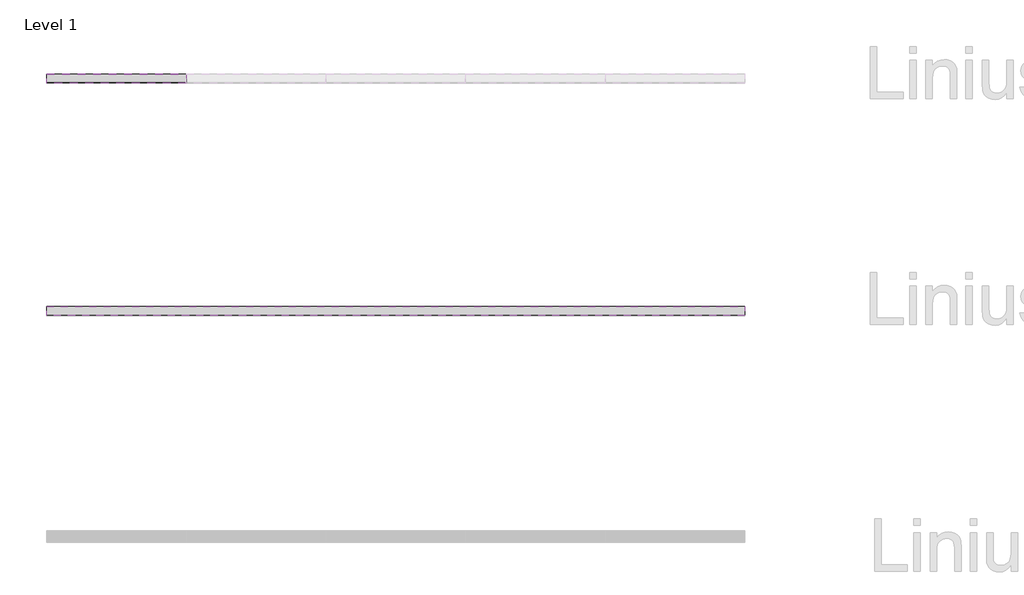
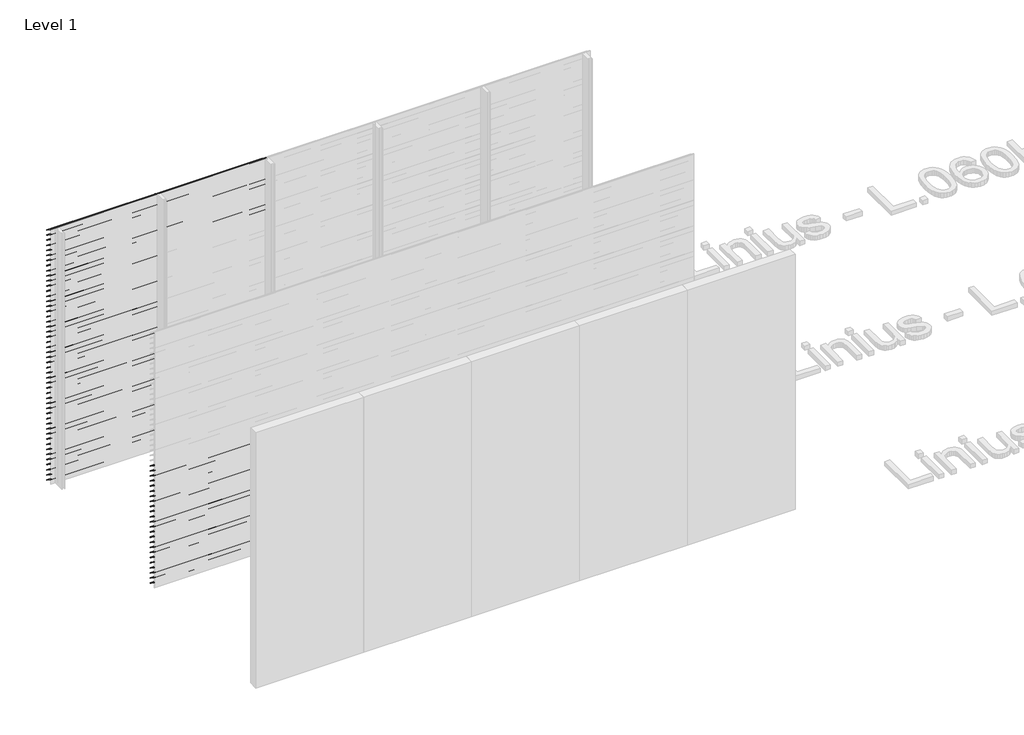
# One storey, part 14 of 153: 85 proxies.
"""IFC4 building model written with IfcOpenShell, lengths in millimetres."""

from ifc_helpers import new_model, si_unit, frame, origin, place, context, project, spatial, polyline, outline, extrude, element, save

model = new_model("IFC4")

# Units and contexts
model_context = context("Model", 3, world=origin())
ifc_project = project(units=[si_unit("LENGTHUNIT", "METRE", prefix="MILLI")], contexts=[model_context])

# Site, building, storey
site = spatial("IfcSite", under=ifc_project)
building = spatial("IfcBuilding", under=site)
storey = spatial("IfcBuildingStorey", under=building, Name="Level 1", Elevation=0.0)

# Proxies
placement = place(None, origin())
element("IfcBuildingElementProxy", 1, Name="Wall Sweeps", at=placement, inside=storey, context=model_context, shape_type="SweptSolid", body=[
    extrude(outline(polyline([(14061.0540136, 2946.0), (14061.0540136, 2940.0), (14059.8040136, 2940.7216933), (14059.8040136, 2945.2538091), (13983.0540136, 2993.9915103), (13983.0540136, 3000.0), (13984.3040136, 3000.0), (13984.3040136, 2994.7377012), (14061.0540136, 2946.0)])), frame((466.6208097, 0.0, 0.0), z_axis=(1.0, 0.0, 0.0), x_axis=(0.0, 1.0, 0.0)), (0.0, 0.0, 1.0), 1200.0000002),
])
element("IfcBuildingElementProxy", 2, Name="Wall Sweeps", at=placement, inside=storey, context=model_context, shape_type="SweptSolid", body=[
    extrude(outline(polyline([(14061.0540136, 2886.0), (14061.0540136, 2880.0), (14059.8040136, 2880.7216933), (14059.8040136, 2885.2538091), (13983.0540136, 2933.9915103), (13983.0540136, 2940.0), (13984.3040136, 2940.0), (13984.3040136, 2934.7377012), (14061.0540136, 2886.0)])), frame((466.6208097, 0.0, 0.0), z_axis=(1.0, 0.0, 0.0), x_axis=(0.0, 1.0, 0.0)), (0.0, 0.0, 1.0), 1200.0000002),
])
element("IfcBuildingElementProxy", 3, Name="Wall Sweeps", at=placement, inside=storey, context=model_context, shape_type="SweptSolid", body=[
    extrude(outline(polyline([(14061.0540136, 2826.0), (14061.0540136, 2820.0), (14059.8040136, 2820.7216933), (14059.8040136, 2825.2538091), (13983.0540136, 2873.9915103), (13983.0540136, 2880.0), (13984.3040136, 2880.0), (13984.3040136, 2874.7377012), (14061.0540136, 2826.0)])), frame((466.6208097, 0.0, 0.0), z_axis=(1.0, 0.0, 0.0), x_axis=(0.0, 1.0, 0.0)), (0.0, 0.0, 1.0), 1200.0000002),
])
element("IfcBuildingElementProxy", 4, Name="Wall Sweeps", at=placement, inside=storey, context=model_context, shape_type="SweptSolid", body=[
    extrude(outline(polyline([(14061.0540136, 2766.0), (14061.0540136, 2760.0), (14059.8040136, 2760.7216933), (14059.8040136, 2765.2538091), (13983.0540136, 2813.9915103), (13983.0540136, 2820.0), (13984.3040136, 2820.0), (13984.3040136, 2814.7377012), (14061.0540136, 2766.0)])), frame((466.6208097, 0.0, 0.0), z_axis=(1.0, 0.0, 0.0), x_axis=(0.0, 1.0, 0.0)), (0.0, 0.0, 1.0), 1200.0000002),
])
element("IfcBuildingElementProxy", 5, Name="Wall Sweeps", at=placement, inside=storey, context=model_context, shape_type="SweptSolid", body=[
    extrude(outline(polyline([(14061.0540136, 2706.0), (14061.0540136, 2700.0), (14059.8040136, 2700.7216933), (14059.8040136, 2705.2538091), (13983.0540136, 2753.9915103), (13983.0540136, 2760.0), (13984.3040136, 2760.0), (13984.3040136, 2754.7377012), (14061.0540136, 2706.0)])), frame((466.6208097, 0.0, 0.0), z_axis=(1.0, 0.0, 0.0), x_axis=(0.0, 1.0, 0.0)), (0.0, 0.0, 1.0), 1200.0000002),
])
element("IfcBuildingElementProxy", 6, Name="Wall Sweeps", at=placement, inside=storey, context=model_context, shape_type="SweptSolid", body=[
    extrude(outline(polyline([(14061.0540136, 2646.0), (14061.0540136, 2640.0), (14059.8040136, 2640.7216933), (14059.8040136, 2645.2538091), (13983.0540136, 2693.9915103), (13983.0540136, 2700.0), (13984.3040136, 2700.0), (13984.3040136, 2694.7377012), (14061.0540136, 2646.0)])), frame((466.6208097, 0.0, 0.0), z_axis=(1.0, 0.0, 0.0), x_axis=(0.0, 1.0, 0.0)), (0.0, 0.0, 1.0), 1200.0000002),
])
element("IfcBuildingElementProxy", 7, Name="Wall Sweeps", at=placement, inside=storey, context=model_context, shape_type="SweptSolid", body=[
    extrude(outline(polyline([(14061.0540136, 2586.0), (14061.0540136, 2580.0), (14059.8040136, 2580.7216933), (14059.8040136, 2585.2538091), (13983.0540136, 2633.9915103), (13983.0540136, 2640.0), (13984.3040136, 2640.0), (13984.3040136, 2634.7377012), (14061.0540136, 2586.0)])), frame((466.6208097, 0.0, 0.0), z_axis=(1.0, 0.0, 0.0), x_axis=(0.0, 1.0, 0.0)), (0.0, 0.0, 1.0), 1200.0000002),
])
element("IfcBuildingElementProxy", 8, Name="Wall Sweeps", at=placement, inside=storey, context=model_context, shape_type="SweptSolid", body=[
    extrude(outline(polyline([(14061.0540136, 2526.0), (14061.0540136, 2520.0), (14059.8040136, 2520.7216933), (14059.8040136, 2525.2538091), (13983.0540136, 2573.9915103), (13983.0540136, 2580.0), (13984.3040136, 2580.0), (13984.3040136, 2574.7377012), (14061.0540136, 2526.0)])), frame((466.6208097, 0.0, 0.0), z_axis=(1.0, 0.0, 0.0), x_axis=(0.0, 1.0, 0.0)), (0.0, 0.0, 1.0), 1200.0000002),
])
element("IfcBuildingElementProxy", 9, Name="Wall Sweeps", at=placement, inside=storey, context=model_context, shape_type="SweptSolid", body=[
    extrude(outline(polyline([(14061.0540136, 2466.0), (14061.0540136, 2460.0), (14059.8040136, 2460.7216933), (14059.8040136, 2465.2538091), (13983.0540136, 2513.9915103), (13983.0540136, 2520.0), (13984.3040136, 2520.0), (13984.3040136, 2514.7377012), (14061.0540136, 2466.0)])), frame((466.6208097, 0.0, 0.0), z_axis=(1.0, 0.0, 0.0), x_axis=(0.0, 1.0, 0.0)), (0.0, 0.0, 1.0), 1200.0000002),
])
element("IfcBuildingElementProxy", 10, Name="Wall Sweeps", at=placement, inside=storey, context=model_context, shape_type="SweptSolid", body=[
    extrude(outline(polyline([(14061.0540136, 2406.0), (14061.0540136, 2400.0), (14059.8040136, 2400.7216933), (14059.8040136, 2405.2538091), (13983.0540136, 2453.9915103), (13983.0540136, 2460.0), (13984.3040136, 2460.0), (13984.3040136, 2454.7377012), (14061.0540136, 2406.0)])), frame((466.6208097, 0.0, 0.0), z_axis=(1.0, 0.0, 0.0), x_axis=(0.0, 1.0, 0.0)), (0.0, 0.0, 1.0), 1200.0000002),
])
element("IfcBuildingElementProxy", 11, Name="Wall Sweeps", at=placement, inside=storey, context=model_context, shape_type="SweptSolid", body=[
    extrude(outline(polyline([(14061.0540136, 2346.0), (14061.0540136, 2340.0), (14059.8040136, 2340.7216933), (14059.8040136, 2345.2538091), (13983.0540136, 2393.9915103), (13983.0540136, 2400.0), (13984.3040136, 2400.0), (13984.3040136, 2394.7377012), (14061.0540136, 2346.0)])), frame((466.6208097, 0.0, 0.0), z_axis=(1.0, 0.0, 0.0), x_axis=(0.0, 1.0, 0.0)), (0.0, 0.0, 1.0), 1200.0000002),
])
element("IfcBuildingElementProxy", 12, Name="Wall Sweeps", at=placement, inside=storey, context=model_context, shape_type="SweptSolid", body=[
    extrude(outline(polyline([(14061.0540136, 2286.0), (14061.0540136, 2280.0), (14059.8040136, 2280.7216933), (14059.8040136, 2285.2538091), (13983.0540136, 2333.9915103), (13983.0540136, 2340.0), (13984.3040136, 2340.0), (13984.3040136, 2334.7377012), (14061.0540136, 2286.0)])), frame((466.6208097, 0.0, 0.0), z_axis=(1.0, 0.0, 0.0), x_axis=(0.0, 1.0, 0.0)), (0.0, 0.0, 1.0), 1200.0000002),
])
element("IfcBuildingElementProxy", 13, Name="Wall Sweeps", at=placement, inside=storey, context=model_context, shape_type="SweptSolid", body=[
    extrude(outline(polyline([(14061.0540136, 2226.0), (14061.0540136, 2220.0), (14059.8040136, 2220.7216933), (14059.8040136, 2225.2538091), (13983.0540136, 2273.9915103), (13983.0540136, 2280.0), (13984.3040136, 2280.0), (13984.3040136, 2274.7377012), (14061.0540136, 2226.0)])), frame((466.6208097, 0.0, 0.0), z_axis=(1.0, 0.0, 0.0), x_axis=(0.0, 1.0, 0.0)), (0.0, 0.0, 1.0), 1200.0000002),
])
element("IfcBuildingElementProxy", 14, Name="Wall Sweeps", at=placement, inside=storey, context=model_context, shape_type="SweptSolid", body=[
    extrude(outline(polyline([(14061.0540136, 2166.0), (14061.0540136, 2160.0), (14059.8040136, 2160.7216933), (14059.8040136, 2165.2538091), (13983.0540136, 2213.9915103), (13983.0540136, 2220.0), (13984.3040136, 2220.0), (13984.3040136, 2214.7377012), (14061.0540136, 2166.0)])), frame((466.6208097, 0.0, 0.0), z_axis=(1.0, 0.0, 0.0), x_axis=(0.0, 1.0, 0.0)), (0.0, 0.0, 1.0), 1200.0000002),
])
element("IfcBuildingElementProxy", 15, Name="Wall Sweeps", at=placement, inside=storey, context=model_context, shape_type="SweptSolid", body=[
    extrude(outline(polyline([(14061.0540136, 2106.0), (14061.0540136, 2100.0), (14059.8040136, 2100.7216933), (14059.8040136, 2105.2538091), (13983.0540136, 2153.9915103), (13983.0540136, 2160.0), (13984.3040136, 2160.0), (13984.3040136, 2154.7377012), (14061.0540136, 2106.0)])), frame((466.6208097, 0.0, 0.0), z_axis=(1.0, 0.0, 0.0), x_axis=(0.0, 1.0, 0.0)), (0.0, 0.0, 1.0), 1200.0000002),
])
element("IfcBuildingElementProxy", 16, Name="Wall Sweeps", at=placement, inside=storey, context=model_context, shape_type="SweptSolid", body=[
    extrude(outline(polyline([(14061.0540136, 2046.0), (14061.0540136, 2040.0), (14059.8040136, 2040.7216933), (14059.8040136, 2045.2538091), (13983.0540136, 2093.9915103), (13983.0540136, 2100.0), (13984.3040136, 2100.0), (13984.3040136, 2094.7377012), (14061.0540136, 2046.0)])), frame((466.6208097, 0.0, 0.0), z_axis=(1.0, 0.0, 0.0), x_axis=(0.0, 1.0, 0.0)), (0.0, 0.0, 1.0), 1200.0000002),
])
element("IfcBuildingElementProxy", 17, Name="Wall Sweeps", at=placement, inside=storey, context=model_context, shape_type="SweptSolid", body=[
    extrude(outline(polyline([(14061.0540136, 1986.0), (14061.0540136, 1980.0), (14059.8040136, 1980.7216933), (14059.8040136, 1985.2538091), (13983.0540136, 2033.9915103), (13983.0540136, 2040.0), (13984.3040136, 2040.0), (13984.3040136, 2034.7377012), (14061.0540136, 1986.0)])), frame((466.6208097, 0.0, 0.0), z_axis=(1.0, 0.0, 0.0), x_axis=(0.0, 1.0, 0.0)), (0.0, 0.0, 1.0), 1200.0000002),
])
element("IfcBuildingElementProxy", 18, Name="Wall Sweeps", at=placement, inside=storey, context=model_context, shape_type="SweptSolid", body=[
    extrude(outline(polyline([(14061.0540136, 1926.0), (14061.0540136, 1920.0), (14059.8040136, 1920.7216933), (14059.8040136, 1925.2538091), (13983.0540136, 1973.9915103), (13983.0540136, 1980.0), (13984.3040136, 1980.0), (13984.3040136, 1974.7377012), (14061.0540136, 1926.0)])), frame((466.6208097, 0.0, 0.0), z_axis=(1.0, 0.0, 0.0), x_axis=(0.0, 1.0, 0.0)), (0.0, 0.0, 1.0), 1200.0000002),
])
element("IfcBuildingElementProxy", 19, Name="Wall Sweeps", at=placement, inside=storey, context=model_context, shape_type="SweptSolid", body=[
    extrude(outline(polyline([(14061.0540136, 1866.0), (14061.0540136, 1860.0), (14059.8040136, 1860.7216933), (14059.8040136, 1865.2538091), (13983.0540136, 1913.9915103), (13983.0540136, 1920.0), (13984.3040136, 1920.0), (13984.3040136, 1914.7377012), (14061.0540136, 1866.0)])), frame((466.6208097, 0.0, 0.0), z_axis=(1.0, 0.0, 0.0), x_axis=(0.0, 1.0, 0.0)), (0.0, 0.0, 1.0), 1200.0000002),
])
element("IfcBuildingElementProxy", 20, Name="Wall Sweeps", at=placement, inside=storey, context=model_context, shape_type="SweptSolid", body=[
    extrude(outline(polyline([(14061.0540136, 1806.0), (14061.0540136, 1800.0), (14059.8040136, 1800.7216933), (14059.8040136, 1805.2538091), (13983.0540136, 1853.9915103), (13983.0540136, 1860.0), (13984.3040136, 1860.0), (13984.3040136, 1854.7377012), (14061.0540136, 1806.0)])), frame((466.6208097, 0.0, 0.0), z_axis=(1.0, 0.0, 0.0), x_axis=(0.0, 1.0, 0.0)), (0.0, 0.0, 1.0), 1200.0000002),
])
element("IfcBuildingElementProxy", 21, Name="Wall Sweeps", at=placement, inside=storey, context=model_context, shape_type="SweptSolid", body=[
    extrude(outline(polyline([(14061.0540136, 1746.0), (14061.0540136, 1740.0), (14059.8040136, 1740.7216933), (14059.8040136, 1745.2538091), (13983.0540136, 1793.9915103), (13983.0540136, 1800.0), (13984.3040136, 1800.0), (13984.3040136, 1794.7377012), (14061.0540136, 1746.0)])), frame((466.6208097, 0.0, 0.0), z_axis=(1.0, 0.0, 0.0), x_axis=(0.0, 1.0, 0.0)), (0.0, 0.0, 1.0), 1200.0000002),
])
element("IfcBuildingElementProxy", 22, Name="Wall Sweeps", at=placement, inside=storey, context=model_context, shape_type="SweptSolid", body=[
    extrude(outline(polyline([(14061.0540136, 1686.0), (14061.0540136, 1680.0), (14059.8040136, 1680.7216933), (14059.8040136, 1685.2538091), (13983.0540136, 1733.9915103), (13983.0540136, 1740.0), (13984.3040136, 1740.0), (13984.3040136, 1734.7377012), (14061.0540136, 1686.0)])), frame((466.6208097, 0.0, 0.0), z_axis=(1.0, 0.0, 0.0), x_axis=(0.0, 1.0, 0.0)), (0.0, 0.0, 1.0), 1200.0000002),
])
element("IfcBuildingElementProxy", 23, Name="Wall Sweeps", at=placement, inside=storey, context=model_context, shape_type="SweptSolid", body=[
    extrude(outline(polyline([(14061.0540136, 1626.0), (14061.0540136, 1620.0), (14059.8040136, 1620.7216933), (14059.8040136, 1625.2538091), (13983.0540136, 1673.9915103), (13983.0540136, 1680.0), (13984.3040136, 1680.0), (13984.3040136, 1674.7377012), (14061.0540136, 1626.0)])), frame((466.6208097, 0.0, 0.0), z_axis=(1.0, 0.0, 0.0), x_axis=(0.0, 1.0, 0.0)), (0.0, 0.0, 1.0), 1200.0000002),
])
element("IfcBuildingElementProxy", 24, Name="Wall Sweeps", at=placement, inside=storey, context=model_context, shape_type="SweptSolid", body=[
    extrude(outline(polyline([(14061.0540136, 1566.0), (14061.0540136, 1560.0), (14059.8040136, 1560.7216933), (14059.8040136, 1565.2538091), (13983.0540136, 1613.9915103), (13983.0540136, 1620.0), (13984.3040136, 1620.0), (13984.3040136, 1614.7377012), (14061.0540136, 1566.0)])), frame((466.6208097, 0.0, 0.0), z_axis=(1.0, 0.0, 0.0), x_axis=(0.0, 1.0, 0.0)), (0.0, 0.0, 1.0), 1200.0000002),
])
element("IfcBuildingElementProxy", 25, Name="Wall Sweeps", at=placement, inside=storey, context=model_context, shape_type="SweptSolid", body=[
    extrude(outline(polyline([(14061.0540136, 1506.0), (14061.0540136, 1500.0), (14059.8040136, 1500.7216933), (14059.8040136, 1505.2538091), (13983.0540136, 1553.9915103), (13983.0540136, 1560.0), (13984.3040136, 1560.0), (13984.3040136, 1554.7377012), (14061.0540136, 1506.0)])), frame((466.6208097, 0.0, 0.0), z_axis=(1.0, 0.0, 0.0), x_axis=(0.0, 1.0, 0.0)), (0.0, 0.0, 1.0), 1200.0000002),
])
element("IfcBuildingElementProxy", 26, Name="Wall Sweeps", at=placement, inside=storey, context=model_context, shape_type="SweptSolid", body=[
    extrude(outline(polyline([(14061.0540136, 1446.0), (14061.0540136, 1440.0), (14059.8040136, 1440.7216933), (14059.8040136, 1445.2538091), (13983.0540136, 1493.9915103), (13983.0540136, 1500.0), (13984.3040136, 1500.0), (13984.3040136, 1494.7377012), (14061.0540136, 1446.0)])), frame((466.6208097, 0.0, 0.0), z_axis=(1.0, 0.0, 0.0), x_axis=(0.0, 1.0, 0.0)), (0.0, 0.0, 1.0), 1200.0000002),
])
element("IfcBuildingElementProxy", 27, Name="Wall Sweeps", at=placement, inside=storey, context=model_context, shape_type="SweptSolid", body=[
    extrude(outline(polyline([(14061.0540136, 1386.0), (14061.0540136, 1380.0), (14059.8040136, 1380.7216933), (14059.8040136, 1385.2538091), (13983.0540136, 1433.9915103), (13983.0540136, 1440.0), (13984.3040136, 1440.0), (13984.3040136, 1434.7377012), (14061.0540136, 1386.0)])), frame((466.6208097, 0.0, 0.0), z_axis=(1.0, 0.0, 0.0), x_axis=(0.0, 1.0, 0.0)), (0.0, 0.0, 1.0), 1200.0000002),
])
element("IfcBuildingElementProxy", 28, Name="Wall Sweeps", at=placement, inside=storey, context=model_context, shape_type="SweptSolid", body=[
    extrude(outline(polyline([(14061.0540136, 1326.0), (14061.0540136, 1320.0), (14059.8040136, 1320.7216933), (14059.8040136, 1325.2538091), (13983.0540136, 1373.9915103), (13983.0540136, 1380.0), (13984.3040136, 1380.0), (13984.3040136, 1374.7377012), (14061.0540136, 1326.0)])), frame((466.6208097, 0.0, 0.0), z_axis=(1.0, 0.0, 0.0), x_axis=(0.0, 1.0, 0.0)), (0.0, 0.0, 1.0), 1200.0000002),
])
element("IfcBuildingElementProxy", 29, Name="Wall Sweeps", at=placement, inside=storey, context=model_context, shape_type="SweptSolid", body=[
    extrude(outline(polyline([(14061.0540136, 1266.0), (14061.0540136, 1260.0), (14059.8040136, 1260.7216933), (14059.8040136, 1265.2538091), (13983.0540136, 1313.9915103), (13983.0540136, 1320.0), (13984.3040136, 1320.0), (13984.3040136, 1314.7377012), (14061.0540136, 1266.0)])), frame((466.6208097, 0.0, 0.0), z_axis=(1.0, 0.0, 0.0), x_axis=(0.0, 1.0, 0.0)), (0.0, 0.0, 1.0), 1200.0000002),
])
element("IfcBuildingElementProxy", 30, Name="Wall Sweeps", at=placement, inside=storey, context=model_context, shape_type="SweptSolid", body=[
    extrude(outline(polyline([(14061.0540136, 1206.0), (14061.0540136, 1200.0), (14059.8040136, 1200.7216933), (14059.8040136, 1205.2538091), (13983.0540136, 1253.9915103), (13983.0540136, 1260.0), (13984.3040136, 1260.0), (13984.3040136, 1254.7377012), (14061.0540136, 1206.0)])), frame((466.6208097, 0.0, 0.0), z_axis=(1.0, 0.0, 0.0), x_axis=(0.0, 1.0, 0.0)), (0.0, 0.0, 1.0), 1200.0000002),
])
element("IfcBuildingElementProxy", 31, Name="Wall Sweeps", at=placement, inside=storey, context=model_context, shape_type="SweptSolid", body=[
    extrude(outline(polyline([(14061.0540136, 1146.0), (14061.0540136, 1140.0), (14059.8040136, 1140.7216933), (14059.8040136, 1145.2538091), (13983.0540136, 1193.9915103), (13983.0540136, 1200.0), (13984.3040136, 1200.0), (13984.3040136, 1194.7377012), (14061.0540136, 1146.0)])), frame((466.6208097, 0.0, 0.0), z_axis=(1.0, 0.0, 0.0), x_axis=(0.0, 1.0, 0.0)), (0.0, 0.0, 1.0), 1200.0000002),
])
element("IfcBuildingElementProxy", 32, Name="Wall Sweeps", at=placement, inside=storey, context=model_context, shape_type="SweptSolid", body=[
    extrude(outline(polyline([(14061.0540136, 1086.0), (14061.0540136, 1080.0), (14059.8040136, 1080.7216933), (14059.8040136, 1085.2538091), (13983.0540136, 1133.9915103), (13983.0540136, 1140.0), (13984.3040136, 1140.0), (13984.3040136, 1134.7377012), (14061.0540136, 1086.0)])), frame((466.6208097, 0.0, 0.0), z_axis=(1.0, 0.0, 0.0), x_axis=(0.0, 1.0, 0.0)), (0.0, 0.0, 1.0), 1200.0000002),
])
element("IfcBuildingElementProxy", 33, Name="Wall Sweeps", at=placement, inside=storey, context=model_context, shape_type="SweptSolid", body=[
    extrude(outline(polyline([(14061.0540136, 1026.0), (14061.0540136, 1020.0), (14059.8040136, 1020.7216933), (14059.8040136, 1025.2538091), (13983.0540136, 1073.9915103), (13983.0540136, 1080.0), (13984.3040136, 1080.0), (13984.3040136, 1074.7377012), (14061.0540136, 1026.0)])), frame((466.6208097, 0.0, 0.0), z_axis=(1.0, 0.0, 0.0), x_axis=(0.0, 1.0, 0.0)), (0.0, 0.0, 1.0), 1200.0000002),
])
element("IfcBuildingElementProxy", 34, Name="Wall Sweeps", at=placement, inside=storey, context=model_context, shape_type="SweptSolid", body=[
    extrude(outline(polyline([(14061.0540136, 966.0), (14061.0540136, 960.0), (14059.8040136, 960.7216933), (14059.8040136, 965.2538091), (13983.0540136, 1013.9915103), (13983.0540136, 1020.0), (13984.3040136, 1020.0), (13984.3040136, 1014.7377012), (14061.0540136, 966.0)])), frame((466.6208097, 0.0, 0.0), z_axis=(1.0, 0.0, 0.0), x_axis=(0.0, 1.0, 0.0)), (0.0, 0.0, 1.0), 1200.0000002),
])
element("IfcBuildingElementProxy", 35, Name="Wall Sweeps", at=placement, inside=storey, context=model_context, shape_type="SweptSolid", body=[
    extrude(outline(polyline([(14061.0540136, 906.0), (14061.0540136, 900.0), (14059.8040136, 900.7216933), (14059.8040136, 905.2538091), (13983.0540136, 953.9915103), (13983.0540136, 960.0), (13984.3040136, 960.0), (13984.3040136, 954.7377012), (14061.0540136, 906.0)])), frame((466.6208097, 0.0, 0.0), z_axis=(1.0, 0.0, 0.0), x_axis=(0.0, 1.0, 0.0)), (0.0, 0.0, 1.0), 1200.0000002),
])
element("IfcBuildingElementProxy", 36, Name="Wall Sweeps", at=placement, inside=storey, context=model_context, shape_type="SweptSolid", body=[
    extrude(outline(polyline([(14061.0540136, 846.0), (14061.0540136, 840.0), (14059.8040136, 840.7216933), (14059.8040136, 845.2538091), (13983.0540136, 893.9915103), (13983.0540136, 900.0), (13984.3040136, 900.0), (13984.3040136, 894.7377012), (14061.0540136, 846.0)])), frame((466.6208097, 0.0, 0.0), z_axis=(1.0, 0.0, 0.0), x_axis=(0.0, 1.0, 0.0)), (0.0, 0.0, 1.0), 1200.0000002),
])
element("IfcBuildingElementProxy", 37, Name="Wall Sweeps", at=placement, inside=storey, context=model_context, shape_type="SweptSolid", body=[
    extrude(outline(polyline([(14061.0540136, 786.0), (14061.0540136, 780.0), (14059.8040136, 780.7216933), (14059.8040136, 785.2538091), (13983.0540136, 833.9915103), (13983.0540136, 840.0), (13984.3040136, 840.0), (13984.3040136, 834.7377012), (14061.0540136, 786.0)])), frame((466.6208097, 0.0, 0.0), z_axis=(1.0, 0.0, 0.0), x_axis=(0.0, 1.0, 0.0)), (0.0, 0.0, 1.0), 1200.0000002),
])
element("IfcBuildingElementProxy", 38, Name="Wall Sweeps", at=placement, inside=storey, context=model_context, shape_type="SweptSolid", body=[
    extrude(outline(polyline([(14061.0540136, 726.0), (14061.0540136, 720.0), (14059.8040136, 720.7216933), (14059.8040136, 725.2538091), (13983.0540136, 773.9915103), (13983.0540136, 780.0), (13984.3040136, 780.0), (13984.3040136, 774.7377012), (14061.0540136, 726.0)])), frame((466.6208097, 0.0, 0.0), z_axis=(1.0, 0.0, 0.0), x_axis=(0.0, 1.0, 0.0)), (0.0, 0.0, 1.0), 1200.0000002),
])
element("IfcBuildingElementProxy", 39, Name="Wall Sweeps", at=placement, inside=storey, context=model_context, shape_type="SweptSolid", body=[
    extrude(outline(polyline([(14061.0540136, 666.0), (14061.0540136, 660.0), (14059.8040136, 660.7216933), (14059.8040136, 665.2538091), (13983.0540136, 713.9915103), (13983.0540136, 720.0), (13984.3040136, 720.0), (13984.3040136, 714.7377012), (14061.0540136, 666.0)])), frame((466.6208097, 0.0, 0.0), z_axis=(1.0, 0.0, 0.0), x_axis=(0.0, 1.0, 0.0)), (0.0, 0.0, 1.0), 1200.0000002),
])
element("IfcBuildingElementProxy", 40, Name="Wall Sweeps", at=placement, inside=storey, context=model_context, shape_type="SweptSolid", body=[
    extrude(outline(polyline([(14061.0540136, 606.0), (14061.0540136, 600.0), (14059.8040136, 600.7216933), (14059.8040136, 605.2538091), (13983.0540136, 653.9915103), (13983.0540136, 660.0), (13984.3040136, 660.0), (13984.3040136, 654.7377012), (14061.0540136, 606.0)])), frame((466.6208097, 0.0, 0.0), z_axis=(1.0, 0.0, 0.0), x_axis=(0.0, 1.0, 0.0)), (0.0, 0.0, 1.0), 1200.0000002),
])
element("IfcBuildingElementProxy", 41, Name="Wall Sweeps", at=placement, inside=storey, context=model_context, shape_type="SweptSolid", body=[
    extrude(outline(polyline([(14061.0540136, 546.0), (14061.0540136, 540.0), (14059.8040136, 540.7216933), (14059.8040136, 545.2538091), (13983.0540136, 593.9915103), (13983.0540136, 600.0), (13984.3040136, 600.0), (13984.3040136, 594.7377012), (14061.0540136, 546.0)])), frame((466.6208097, 0.0, 0.0), z_axis=(1.0, 0.0, 0.0), x_axis=(0.0, 1.0, 0.0)), (0.0, 0.0, 1.0), 1200.0000002),
])
element("IfcBuildingElementProxy", 42, Name="Wall Sweeps", at=placement, inside=storey, context=model_context, shape_type="SweptSolid", body=[
    extrude(outline(polyline([(14061.0540136, 486.0), (14061.0540136, 480.0), (14059.8040136, 480.7216933), (14059.8040136, 485.2538091), (13983.0540136, 533.9915103), (13983.0540136, 540.0), (13984.3040136, 540.0), (13984.3040136, 534.7377012), (14061.0540136, 486.0)])), frame((466.6208097, 0.0, 0.0), z_axis=(1.0, 0.0, 0.0), x_axis=(0.0, 1.0, 0.0)), (0.0, 0.0, 1.0), 1200.0000002),
])
element("IfcBuildingElementProxy", 43, Name="Wall Sweeps", at=placement, inside=storey, context=model_context, shape_type="SweptSolid", body=[
    extrude(outline(polyline([(14061.0540136, 426.0), (14061.0540136, 420.0), (14059.8040136, 420.7216933), (14059.8040136, 425.2538091), (13983.0540136, 473.9915103), (13983.0540136, 480.0), (13984.3040136, 480.0), (13984.3040136, 474.7377012), (14061.0540136, 426.0)])), frame((466.6208097, 0.0, 0.0), z_axis=(1.0, 0.0, 0.0), x_axis=(0.0, 1.0, 0.0)), (0.0, 0.0, 1.0), 1200.0000002),
])
element("IfcBuildingElementProxy", 44, Name="Wall Sweeps", at=placement, inside=storey, context=model_context, shape_type="SweptSolid", body=[
    extrude(outline(polyline([(14061.0540136, 366.0), (14061.0540136, 360.0), (14059.8040136, 360.7216933), (14059.8040136, 365.2538091), (13983.0540136, 413.9915103), (13983.0540136, 420.0), (13984.3040136, 420.0), (13984.3040136, 414.7377012), (14061.0540136, 366.0)])), frame((466.6208097, 0.0, 0.0), z_axis=(1.0, 0.0, 0.0), x_axis=(0.0, 1.0, 0.0)), (0.0, 0.0, 1.0), 1200.0000002),
])
element("IfcBuildingElementProxy", 45, Name="Wall Sweeps", at=placement, inside=storey, context=model_context, shape_type="SweptSolid", body=[
    extrude(outline(polyline([(14061.0540136, 306.0), (14061.0540136, 300.0), (14059.8040136, 300.7216933), (14059.8040136, 305.2538091), (13983.0540136, 353.9915103), (13983.0540136, 360.0), (13984.3040136, 360.0), (13984.3040136, 354.7377012), (14061.0540136, 306.0)])), frame((466.6208097, 0.0, 0.0), z_axis=(1.0, 0.0, 0.0), x_axis=(0.0, 1.0, 0.0)), (0.0, 0.0, 1.0), 1200.0000002),
])
element("IfcBuildingElementProxy", 46, Name="Wall Sweeps", at=placement, inside=storey, context=model_context, shape_type="SweptSolid", body=[
    extrude(outline(polyline([(14061.0540136, 246.0), (14061.0540136, 240.0), (14059.8040136, 240.7216933), (14059.8040136, 245.2538091), (13983.0540136, 293.9915103), (13983.0540136, 300.0), (13984.3040136, 300.0), (13984.3040136, 294.7377012), (14061.0540136, 246.0)])), frame((466.6208097, 0.0, 0.0), z_axis=(1.0, 0.0, 0.0), x_axis=(0.0, 1.0, 0.0)), (0.0, 0.0, 1.0), 1200.0000002),
])
element("IfcBuildingElementProxy", 47, Name="Wall Sweeps", at=placement, inside=storey, context=model_context, shape_type="SweptSolid", body=[
    extrude(outline(polyline([(14061.0540136, 186.0), (14061.0540136, 180.0), (14059.8040136, 180.7216933), (14059.8040136, 185.2538091), (13983.0540136, 233.9915103), (13983.0540136, 240.0), (13984.3040136, 240.0), (13984.3040136, 234.7377012), (14061.0540136, 186.0)])), frame((466.6208097, 0.0, 0.0), z_axis=(1.0, 0.0, 0.0), x_axis=(0.0, 1.0, 0.0)), (0.0, 0.0, 1.0), 1200.0000002),
])
element("IfcBuildingElementProxy", 48, Name="Wall Sweeps", at=placement, inside=storey, context=model_context, shape_type="SweptSolid", body=[
    extrude(outline(polyline([(14061.0540136, 126.0), (14061.0540136, 120.0), (14059.8040136, 120.7216933), (14059.8040136, 125.2538091), (13983.0540136, 173.9915103), (13983.0540136, 180.0), (13984.3040136, 180.0), (13984.3040136, 174.7377012), (14061.0540136, 126.0)])), frame((466.6208097, 0.0, 0.0), z_axis=(1.0, 0.0, 0.0), x_axis=(0.0, 1.0, 0.0)), (0.0, 0.0, 1.0), 1200.0000002),
])
element("IfcBuildingElementProxy", 49, Name="Wall Sweeps", at=placement, inside=storey, context=model_context, shape_type="SweptSolid", body=[
    extrude(outline(polyline([(14061.0540136, 66.0), (14061.0540136, 60.0), (14059.8040136, 60.7216933), (14059.8040136, 65.2538091), (13983.0540136, 113.9915103), (13983.0540136, 120.0), (13984.3040136, 120.0), (13984.3040136, 114.7377012), (14061.0540136, 66.0)])), frame((466.6208097, 0.0, 0.0), z_axis=(1.0, 0.0, 0.0), x_axis=(0.0, 1.0, 0.0)), (0.0, 0.0, 1.0), 1200.0000002),
])
element("IfcBuildingElementProxy", 50, Name="Wall Sweeps", at=placement, inside=storey, context=model_context, shape_type="SweptSolid", body=[
    extrude(outline(polyline([(14061.0540136, 6.0), (14061.0540136, 0.0), (14059.8040136, 0.7216933), (14059.8040136, 5.2538091), (13983.0540136, 53.9915103), (13983.0540136, 60.0), (13984.3040136, 60.0), (13984.3040136, 54.7377012), (14061.0540136, 6.0)])), frame((466.6208097, 0.0, 0.0), z_axis=(1.0, 0.0, 0.0), x_axis=(0.0, 1.0, 0.0)), (0.0, 0.0, 1.0), 1200.0000002),
])
element("IfcBuildingElementProxy", 51, Name="Wall Sweeps", at=placement, inside=storey, context=model_context, shape_type="SweptSolid", body=[
    extrude(outline(polyline([(14061.0540136, 2946.0), (14061.0540136, 2940.0), (14059.8040136, 2940.7216933), (14059.8040136, 2945.2538091), (13983.0540136, 2993.9915103), (13983.0540136, 3000.0), (13984.3040136, 3000.0), (13984.3040136, 2994.7377012), (14061.0540136, 2946.0)])), frame((1666.6208099, 0.0, 0.0), z_axis=(1.0, 0.0, 0.0), x_axis=(0.0, 1.0, 0.0)), (0.0, 0.0, 1.0), 1199.9999999),
])
element("IfcBuildingElementProxy", 52, Name="Wall Sweeps", at=placement, inside=storey, context=model_context, shape_type="SweptSolid", body=[
    extrude(outline(polyline([(14061.0540136, 2886.0), (14061.0540136, 2880.0), (14059.8040136, 2880.7216933), (14059.8040136, 2885.2538091), (13983.0540136, 2933.9915103), (13983.0540136, 2940.0), (13984.3040136, 2940.0), (13984.3040136, 2934.7377012), (14061.0540136, 2886.0)])), frame((1666.6208099, 0.0, 0.0), z_axis=(1.0, 0.0, 0.0), x_axis=(0.0, 1.0, 0.0)), (0.0, 0.0, 1.0), 1199.9999999),
])
element("IfcBuildingElementProxy", 53, Name="Wall Sweeps", at=placement, inside=storey, context=model_context, shape_type="SweptSolid", body=[
    extrude(outline(polyline([(14061.0540136, 2826.0), (14061.0540136, 2820.0), (14059.8040136, 2820.7216933), (14059.8040136, 2825.2538091), (13983.0540136, 2873.9915103), (13983.0540136, 2880.0), (13984.3040136, 2880.0), (13984.3040136, 2874.7377012), (14061.0540136, 2826.0)])), frame((1666.6208099, 0.0, 0.0), z_axis=(1.0, 0.0, 0.0), x_axis=(0.0, 1.0, 0.0)), (0.0, 0.0, 1.0), 1199.9999999),
])
element("IfcBuildingElementProxy", 54, Name="Wall Sweeps", at=placement, inside=storey, context=model_context, shape_type="SweptSolid", body=[
    extrude(outline(polyline([(14061.0540136, 2766.0), (14061.0540136, 2760.0), (14059.8040136, 2760.7216933), (14059.8040136, 2765.2538091), (13983.0540136, 2813.9915103), (13983.0540136, 2820.0), (13984.3040136, 2820.0), (13984.3040136, 2814.7377012), (14061.0540136, 2766.0)])), frame((1666.6208099, 0.0, 0.0), z_axis=(1.0, 0.0, 0.0), x_axis=(0.0, 1.0, 0.0)), (0.0, 0.0, 1.0), 1199.9999999),
])
element("IfcBuildingElementProxy", 55, Name="Wall Sweeps", at=placement, inside=storey, context=model_context, shape_type="SweptSolid", body=[
    extrude(outline(polyline([(14061.0540136, 2706.0), (14061.0540136, 2700.0), (14059.8040136, 2700.7216933), (14059.8040136, 2705.2538091), (13983.0540136, 2753.9915103), (13983.0540136, 2760.0), (13984.3040136, 2760.0), (13984.3040136, 2754.7377012), (14061.0540136, 2706.0)])), frame((1666.6208099, 0.0, 0.0), z_axis=(1.0, 0.0, 0.0), x_axis=(0.0, 1.0, 0.0)), (0.0, 0.0, 1.0), 1199.9999999),
])
element("IfcBuildingElementProxy", 56, Name="Wall Sweeps", at=placement, inside=storey, context=model_context, shape_type="SweptSolid", body=[
    extrude(outline(polyline([(14061.0540136, 2646.0), (14061.0540136, 2640.0), (14059.8040136, 2640.7216933), (14059.8040136, 2645.2538091), (13983.0540136, 2693.9915103), (13983.0540136, 2700.0), (13984.3040136, 2700.0), (13984.3040136, 2694.7377012), (14061.0540136, 2646.0)])), frame((1666.6208099, 0.0, 0.0), z_axis=(1.0, 0.0, 0.0), x_axis=(0.0, 1.0, 0.0)), (0.0, 0.0, 1.0), 1199.9999999),
])
element("IfcBuildingElementProxy", 57, Name="Wall Sweeps", at=placement, inside=storey, context=model_context, shape_type="SweptSolid", body=[
    extrude(outline(polyline([(14061.0540136, 2586.0), (14061.0540136, 2580.0), (14059.8040136, 2580.7216933), (14059.8040136, 2585.2538091), (13983.0540136, 2633.9915103), (13983.0540136, 2640.0), (13984.3040136, 2640.0), (13984.3040136, 2634.7377012), (14061.0540136, 2586.0)])), frame((1666.6208099, 0.0, 0.0), z_axis=(1.0, 0.0, 0.0), x_axis=(0.0, 1.0, 0.0)), (0.0, 0.0, 1.0), 1199.9999999),
])
element("IfcBuildingElementProxy", 58, Name="Wall Sweeps", at=placement, inside=storey, context=model_context, shape_type="SweptSolid", body=[
    extrude(outline(polyline([(14061.0540136, 2526.0), (14061.0540136, 2520.0), (14059.8040136, 2520.7216933), (14059.8040136, 2525.2538091), (13983.0540136, 2573.9915103), (13983.0540136, 2580.0), (13984.3040136, 2580.0), (13984.3040136, 2574.7377012), (14061.0540136, 2526.0)])), frame((1666.6208099, 0.0, 0.0), z_axis=(1.0, 0.0, 0.0), x_axis=(0.0, 1.0, 0.0)), (0.0, 0.0, 1.0), 1199.9999999),
])
element("IfcBuildingElementProxy", 59, Name="Wall Sweeps", at=placement, inside=storey, context=model_context, shape_type="SweptSolid", body=[
    extrude(outline(polyline([(14061.0540136, 2466.0), (14061.0540136, 2460.0), (14059.8040136, 2460.7216933), (14059.8040136, 2465.2538091), (13983.0540136, 2513.9915103), (13983.0540136, 2520.0), (13984.3040136, 2520.0), (13984.3040136, 2514.7377012), (14061.0540136, 2466.0)])), frame((1666.6208099, 0.0, 0.0), z_axis=(1.0, 0.0, 0.0), x_axis=(0.0, 1.0, 0.0)), (0.0, 0.0, 1.0), 1199.9999999),
])
element("IfcBuildingElementProxy", 60, Name="Wall Sweeps", at=placement, inside=storey, context=model_context, shape_type="SweptSolid", body=[
    extrude(outline(polyline([(14061.0540136, 2406.0), (14061.0540136, 2400.0), (14059.8040136, 2400.7216933), (14059.8040136, 2405.2538091), (13983.0540136, 2453.9915103), (13983.0540136, 2460.0), (13984.3040136, 2460.0), (13984.3040136, 2454.7377012), (14061.0540136, 2406.0)])), frame((1666.6208099, 0.0, 0.0), z_axis=(1.0, 0.0, 0.0), x_axis=(0.0, 1.0, 0.0)), (0.0, 0.0, 1.0), 1199.9999999),
])
element("IfcBuildingElementProxy", 61, Name="Wall Sweeps", at=placement, inside=storey, context=model_context, shape_type="SweptSolid", body=[
    extrude(outline(polyline([(14061.0540136, 2346.0), (14061.0540136, 2340.0), (14059.8040136, 2340.7216933), (14059.8040136, 2345.2538091), (13983.0540136, 2393.9915103), (13983.0540136, 2400.0), (13984.3040136, 2400.0), (13984.3040136, 2394.7377012), (14061.0540136, 2346.0)])), frame((1666.6208099, 0.0, 0.0), z_axis=(1.0, 0.0, 0.0), x_axis=(0.0, 1.0, 0.0)), (0.0, 0.0, 1.0), 1199.9999999),
])
element("IfcBuildingElementProxy", 62, Name="Wall Sweeps", at=placement, inside=storey, context=model_context, shape_type="SweptSolid", body=[
    extrude(outline(polyline([(12061.0540136, 1386.0), (12061.0540136, 1380.0), (12059.8040136, 1380.7216933), (12059.8040136, 1385.2538091), (11983.0540136, 1433.9915103), (11983.0540136, 1440.0), (11984.3040136, 1440.0), (11984.3040136, 1434.7377012), (12061.0540136, 1386.0)])), frame((466.6208097, 0.0, 0.0), z_axis=(1.0, 0.0, 0.0), x_axis=(0.0, 1.0, 0.0)), (0.0, 0.0, 1.0), 6000.0),
])
element("IfcBuildingElementProxy", 63, Name="Wall Sweeps", at=placement, inside=storey, context=model_context, shape_type="SweptSolid", body=[
    extrude(outline(polyline([(12061.0540136, 1326.0), (12061.0540136, 1320.0), (12059.8040136, 1320.7216933), (12059.8040136, 1325.2538091), (11983.0540136, 1373.9915103), (11983.0540136, 1380.0), (11984.3040136, 1380.0), (11984.3040136, 1374.7377012), (12061.0540136, 1326.0)])), frame((466.6208097, 0.0, 0.0), z_axis=(1.0, 0.0, 0.0), x_axis=(0.0, 1.0, 0.0)), (0.0, 0.0, 1.0), 6000.0),
])
element("IfcBuildingElementProxy", 64, Name="Wall Sweeps", at=placement, inside=storey, context=model_context, shape_type="SweptSolid", body=[
    extrude(outline(polyline([(12061.0540136, 1266.0), (12061.0540136, 1260.0), (12059.8040136, 1260.7216933), (12059.8040136, 1265.2538091), (11983.0540136, 1313.9915103), (11983.0540136, 1320.0), (11984.3040136, 1320.0), (11984.3040136, 1314.7377012), (12061.0540136, 1266.0)])), frame((466.6208097, 0.0, 0.0), z_axis=(1.0, 0.0, 0.0), x_axis=(0.0, 1.0, 0.0)), (0.0, 0.0, 1.0), 6000.0),
])
element("IfcBuildingElementProxy", 65, Name="Wall Sweeps", at=placement, inside=storey, context=model_context, shape_type="SweptSolid", body=[
    extrude(outline(polyline([(12061.0540136, 1206.0), (12061.0540136, 1200.0), (12059.8040136, 1200.7216933), (12059.8040136, 1205.2538091), (11983.0540136, 1253.9915103), (11983.0540136, 1260.0), (11984.3040136, 1260.0), (11984.3040136, 1254.7377012), (12061.0540136, 1206.0)])), frame((466.6208097, 0.0, 0.0), z_axis=(1.0, 0.0, 0.0), x_axis=(0.0, 1.0, 0.0)), (0.0, 0.0, 1.0), 6000.0),
])
element("IfcBuildingElementProxy", 66, Name="Wall Sweeps", at=placement, inside=storey, context=model_context, shape_type="SweptSolid", body=[
    extrude(outline(polyline([(12061.0540136, 1146.0), (12061.0540136, 1140.0), (12059.8040136, 1140.7216933), (12059.8040136, 1145.2538091), (11983.0540136, 1193.9915103), (11983.0540136, 1200.0), (11984.3040136, 1200.0), (11984.3040136, 1194.7377012), (12061.0540136, 1146.0)])), frame((466.6208097, 0.0, 0.0), z_axis=(1.0, 0.0, 0.0), x_axis=(0.0, 1.0, 0.0)), (0.0, 0.0, 1.0), 6000.0),
])
element("IfcBuildingElementProxy", 67, Name="Wall Sweeps", at=placement, inside=storey, context=model_context, shape_type="SweptSolid", body=[
    extrude(outline(polyline([(12061.0540136, 1086.0), (12061.0540136, 1080.0), (12059.8040136, 1080.7216933), (12059.8040136, 1085.2538091), (11983.0540136, 1133.9915103), (11983.0540136, 1140.0), (11984.3040136, 1140.0), (11984.3040136, 1134.7377012), (12061.0540136, 1086.0)])), frame((466.6208097, 0.0, 0.0), z_axis=(1.0, 0.0, 0.0), x_axis=(0.0, 1.0, 0.0)), (0.0, 0.0, 1.0), 6000.0),
])
element("IfcBuildingElementProxy", 68, Name="Wall Sweeps", at=placement, inside=storey, context=model_context, shape_type="SweptSolid", body=[
    extrude(outline(polyline([(12061.0540136, 1026.0), (12061.0540136, 1020.0), (12059.8040136, 1020.7216933), (12059.8040136, 1025.2538091), (11983.0540136, 1073.9915103), (11983.0540136, 1080.0), (11984.3040136, 1080.0), (11984.3040136, 1074.7377012), (12061.0540136, 1026.0)])), frame((466.6208097, 0.0, 0.0), z_axis=(1.0, 0.0, 0.0), x_axis=(0.0, 1.0, 0.0)), (0.0, 0.0, 1.0), 6000.0),
])
element("IfcBuildingElementProxy", 69, Name="Wall Sweeps", at=placement, inside=storey, context=model_context, shape_type="SweptSolid", body=[
    extrude(outline(polyline([(12061.0540136, 966.0), (12061.0540136, 960.0), (12059.8040136, 960.7216933), (12059.8040136, 965.2538091), (11983.0540136, 1013.9915103), (11983.0540136, 1020.0), (11984.3040136, 1020.0), (11984.3040136, 1014.7377012), (12061.0540136, 966.0)])), frame((466.6208097, 0.0, 0.0), z_axis=(1.0, 0.0, 0.0), x_axis=(0.0, 1.0, 0.0)), (0.0, 0.0, 1.0), 6000.0),
])
element("IfcBuildingElementProxy", 70, Name="Wall Sweeps", at=placement, inside=storey, context=model_context, shape_type="SweptSolid", body=[
    extrude(outline(polyline([(12061.0540136, 906.0), (12061.0540136, 900.0), (12059.8040136, 900.7216933), (12059.8040136, 905.2538091), (11983.0540136, 953.9915103), (11983.0540136, 960.0), (11984.3040136, 960.0), (11984.3040136, 954.7377012), (12061.0540136, 906.0)])), frame((466.6208097, 0.0, 0.0), z_axis=(1.0, 0.0, 0.0), x_axis=(0.0, 1.0, 0.0)), (0.0, 0.0, 1.0), 6000.0),
])
element("IfcBuildingElementProxy", 71, Name="Wall Sweeps", at=placement, inside=storey, context=model_context, shape_type="SweptSolid", body=[
    extrude(outline(polyline([(12061.0540136, 846.0), (12061.0540136, 840.0), (12059.8040136, 840.7216933), (12059.8040136, 845.2538091), (11983.0540136, 893.9915103), (11983.0540136, 900.0), (11984.3040136, 900.0), (11984.3040136, 894.7377012), (12061.0540136, 846.0)])), frame((466.6208097, 0.0, 0.0), z_axis=(1.0, 0.0, 0.0), x_axis=(0.0, 1.0, 0.0)), (0.0, 0.0, 1.0), 6000.0),
])
element("IfcBuildingElementProxy", 72, Name="Wall Sweeps", at=placement, inside=storey, context=model_context, shape_type="SweptSolid", body=[
    extrude(outline(polyline([(12061.0540136, 786.0), (12061.0540136, 780.0), (12059.8040136, 780.7216933), (12059.8040136, 785.2538091), (11983.0540136, 833.9915103), (11983.0540136, 840.0), (11984.3040136, 840.0), (11984.3040136, 834.7377012), (12061.0540136, 786.0)])), frame((466.6208097, 0.0, 0.0), z_axis=(1.0, 0.0, 0.0), x_axis=(0.0, 1.0, 0.0)), (0.0, 0.0, 1.0), 6000.0),
])
element("IfcBuildingElementProxy", 73, Name="Wall Sweeps", at=placement, inside=storey, context=model_context, shape_type="SweptSolid", body=[
    extrude(outline(polyline([(12061.0540136, 726.0), (12061.0540136, 720.0), (12059.8040136, 720.7216933), (12059.8040136, 725.2538091), (11983.0540136, 773.9915103), (11983.0540136, 780.0), (11984.3040136, 780.0), (11984.3040136, 774.7377012), (12061.0540136, 726.0)])), frame((466.6208097, 0.0, 0.0), z_axis=(1.0, 0.0, 0.0), x_axis=(0.0, 1.0, 0.0)), (0.0, 0.0, 1.0), 6000.0),
])
element("IfcBuildingElementProxy", 74, Name="Wall Sweeps", at=placement, inside=storey, context=model_context, shape_type="SweptSolid", body=[
    extrude(outline(polyline([(12061.0540136, 666.0), (12061.0540136, 660.0), (12059.8040136, 660.7216933), (12059.8040136, 665.2538091), (11983.0540136, 713.9915103), (11983.0540136, 720.0), (11984.3040136, 720.0), (11984.3040136, 714.7377012), (12061.0540136, 666.0)])), frame((466.6208097, 0.0, 0.0), z_axis=(1.0, 0.0, 0.0), x_axis=(0.0, 1.0, 0.0)), (0.0, 0.0, 1.0), 6000.0),
])
element("IfcBuildingElementProxy", 75, Name="Wall Sweeps", at=placement, inside=storey, context=model_context, shape_type="SweptSolid", body=[
    extrude(outline(polyline([(12061.0540136, 606.0), (12061.0540136, 600.0), (12059.8040136, 600.7216933), (12059.8040136, 605.2538091), (11983.0540136, 653.9915103), (11983.0540136, 660.0), (11984.3040136, 660.0), (11984.3040136, 654.7377012), (12061.0540136, 606.0)])), frame((466.6208097, 0.0, 0.0), z_axis=(1.0, 0.0, 0.0), x_axis=(0.0, 1.0, 0.0)), (0.0, 0.0, 1.0), 6000.0),
])
element("IfcBuildingElementProxy", 76, Name="Wall Sweeps", at=placement, inside=storey, context=model_context, shape_type="SweptSolid", body=[
    extrude(outline(polyline([(12061.0540136, 546.0), (12061.0540136, 540.0), (12059.8040136, 540.7216933), (12059.8040136, 545.2538091), (11983.0540136, 593.9915103), (11983.0540136, 600.0), (11984.3040136, 600.0), (11984.3040136, 594.7377012), (12061.0540136, 546.0)])), frame((466.6208097, 0.0, 0.0), z_axis=(1.0, 0.0, 0.0), x_axis=(0.0, 1.0, 0.0)), (0.0, 0.0, 1.0), 6000.0),
])
element("IfcBuildingElementProxy", 77, Name="Wall Sweeps", at=placement, inside=storey, context=model_context, shape_type="SweptSolid", body=[
    extrude(outline(polyline([(12061.0540136, 486.0), (12061.0540136, 480.0), (12059.8040136, 480.7216933), (12059.8040136, 485.2538091), (11983.0540136, 533.9915103), (11983.0540136, 540.0), (11984.3040136, 540.0), (11984.3040136, 534.7377012), (12061.0540136, 486.0)])), frame((466.6208097, 0.0, 0.0), z_axis=(1.0, 0.0, 0.0), x_axis=(0.0, 1.0, 0.0)), (0.0, 0.0, 1.0), 6000.0),
])
element("IfcBuildingElementProxy", 78, Name="Wall Sweeps", at=placement, inside=storey, context=model_context, shape_type="SweptSolid", body=[
    extrude(outline(polyline([(12061.0540136, 426.0), (12061.0540136, 420.0), (12059.8040136, 420.7216933), (12059.8040136, 425.2538091), (11983.0540136, 473.9915103), (11983.0540136, 480.0), (11984.3040136, 480.0), (11984.3040136, 474.7377012), (12061.0540136, 426.0)])), frame((466.6208097, 0.0, 0.0), z_axis=(1.0, 0.0, 0.0), x_axis=(0.0, 1.0, 0.0)), (0.0, 0.0, 1.0), 6000.0),
])
element("IfcBuildingElementProxy", 79, Name="Wall Sweeps", at=placement, inside=storey, context=model_context, shape_type="SweptSolid", body=[
    extrude(outline(polyline([(12061.0540136, 366.0), (12061.0540136, 360.0), (12059.8040136, 360.7216933), (12059.8040136, 365.2538091), (11983.0540136, 413.9915103), (11983.0540136, 420.0), (11984.3040136, 420.0), (11984.3040136, 414.7377012), (12061.0540136, 366.0)])), frame((466.6208097, 0.0, 0.0), z_axis=(1.0, 0.0, 0.0), x_axis=(0.0, 1.0, 0.0)), (0.0, 0.0, 1.0), 6000.0),
])
element("IfcBuildingElementProxy", 80, Name="Wall Sweeps", at=placement, inside=storey, context=model_context, shape_type="SweptSolid", body=[
    extrude(outline(polyline([(12061.0540136, 306.0), (12061.0540136, 300.0), (12059.8040136, 300.7216933), (12059.8040136, 305.2538091), (11983.0540136, 353.9915103), (11983.0540136, 360.0), (11984.3040136, 360.0), (11984.3040136, 354.7377012), (12061.0540136, 306.0)])), frame((466.6208097, 0.0, 0.0), z_axis=(1.0, 0.0, 0.0), x_axis=(0.0, 1.0, 0.0)), (0.0, 0.0, 1.0), 6000.0),
])
element("IfcBuildingElementProxy", 81, Name="Wall Sweeps", at=placement, inside=storey, context=model_context, shape_type="SweptSolid", body=[
    extrude(outline(polyline([(12061.0540136, 246.0), (12061.0540136, 240.0), (12059.8040136, 240.7216933), (12059.8040136, 245.2538091), (11983.0540136, 293.9915103), (11983.0540136, 300.0), (11984.3040136, 300.0), (11984.3040136, 294.7377012), (12061.0540136, 246.0)])), frame((466.6208097, 0.0, 0.0), z_axis=(1.0, 0.0, 0.0), x_axis=(0.0, 1.0, 0.0)), (0.0, 0.0, 1.0), 6000.0),
])
element("IfcBuildingElementProxy", 82, Name="Wall Sweeps", at=placement, inside=storey, context=model_context, shape_type="SweptSolid", body=[
    extrude(outline(polyline([(12061.0540136, 186.0), (12061.0540136, 180.0), (12059.8040136, 180.7216933), (12059.8040136, 185.2538091), (11983.0540136, 233.9915103), (11983.0540136, 240.0), (11984.3040136, 240.0), (11984.3040136, 234.7377012), (12061.0540136, 186.0)])), frame((466.6208097, 0.0, 0.0), z_axis=(1.0, 0.0, 0.0), x_axis=(0.0, 1.0, 0.0)), (0.0, 0.0, 1.0), 6000.0),
])
element("IfcBuildingElementProxy", 83, Name="Wall Sweeps", at=placement, inside=storey, context=model_context, shape_type="SweptSolid", body=[
    extrude(outline(polyline([(12061.0540136, 126.0), (12061.0540136, 120.0), (12059.8040136, 120.7216933), (12059.8040136, 125.2538091), (11983.0540136, 173.9915103), (11983.0540136, 180.0), (11984.3040136, 180.0), (11984.3040136, 174.7377012), (12061.0540136, 126.0)])), frame((466.6208097, 0.0, 0.0), z_axis=(1.0, 0.0, 0.0), x_axis=(0.0, 1.0, 0.0)), (0.0, 0.0, 1.0), 6000.0),
])
element("IfcBuildingElementProxy", 84, Name="Wall Sweeps", at=placement, inside=storey, context=model_context, shape_type="SweptSolid", body=[
    extrude(outline(polyline([(12061.0540136, 66.0), (12061.0540136, 60.0), (12059.8040136, 60.7216933), (12059.8040136, 65.2538091), (11983.0540136, 113.9915103), (11983.0540136, 120.0), (11984.3040136, 120.0), (11984.3040136, 114.7377012), (12061.0540136, 66.0)])), frame((466.6208097, 0.0, 0.0), z_axis=(1.0, 0.0, 0.0), x_axis=(0.0, 1.0, 0.0)), (0.0, 0.0, 1.0), 6000.0),
])
element("IfcBuildingElementProxy", 85, Name="Wall Sweeps", at=placement, inside=storey, context=model_context, shape_type="SweptSolid", body=[
    extrude(outline(polyline([(12061.0540136, 6.0), (12061.0540136, 0.0), (12059.8040136, 0.7216933), (12059.8040136, 5.2538091), (11983.0540136, 53.9915103), (11983.0540136, 60.0), (11984.3040136, 60.0), (11984.3040136, 54.7377012), (12061.0540136, 6.0)])), frame((466.6208097, 0.0, 0.0), z_axis=(1.0, 0.0, 0.0), x_axis=(0.0, 1.0, 0.0)), (0.0, 0.0, 1.0), 6000.0),
])

save(model, "model.ifc")
